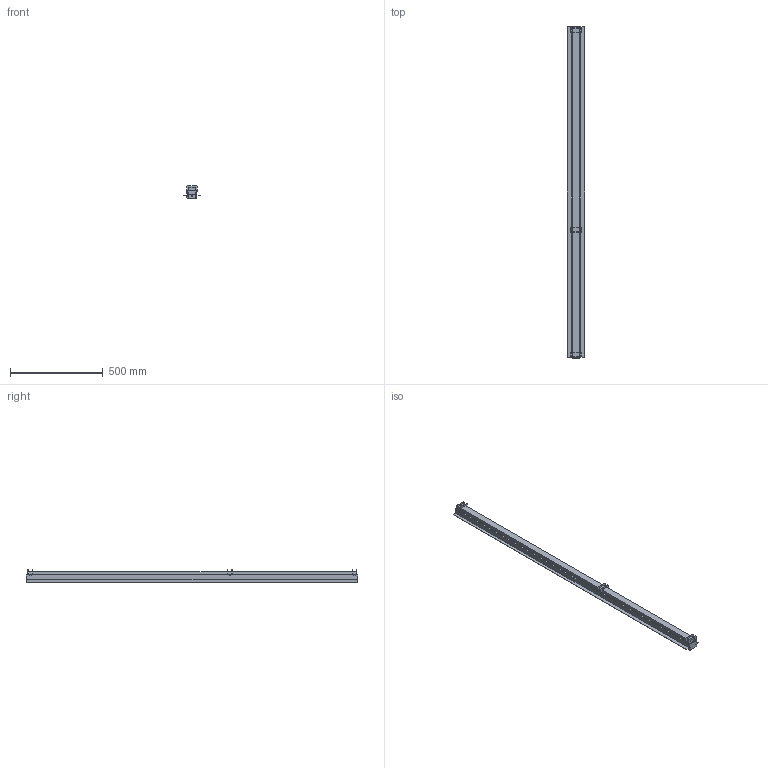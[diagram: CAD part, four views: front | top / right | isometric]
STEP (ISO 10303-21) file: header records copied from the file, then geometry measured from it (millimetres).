
FILE_DESCRIPTION(/* description */ (''),/* implementation_level */ '2;1');
FILE_NAME(/* name */ 'ATL1776__',/* time_stamp */ '2018-07-18T15:34:01+02:00',/* author */ (''),/* organization */ (''),/* preprocessor_version */ 'ST-DEVELOPER v15',/* originating_system */ '',/* authorisation */ '');
FILE_SCHEMA (('CONFIG_CONTROL_DESIGN'));
Length unit declared in the file: millimetre
Products named in the file (1): Document
Bounding box: 92.2 x 1793.79 x 68.52 mm (x, y, z)
Volume: 2221434.1 mm3; surface area: 898247.9 mm2
Topology: 10 solids, 15 shells, 613 faces, 1930 edges, 1248 vertices
Faces by surface type: plane 349, bspline 264
Entity records: 19798 total; most frequent: CARTESIAN_POINT 8594, ORIENTED_EDGE 3732, EDGE_CURVE 1929, B_SPLINE_CURVE_WITH_KNOTS 1271, VERTEX_POINT 1248, ADVANCED_FACE 613, FACE_OUTER_BOUND 613, EDGE_LOOP 613
